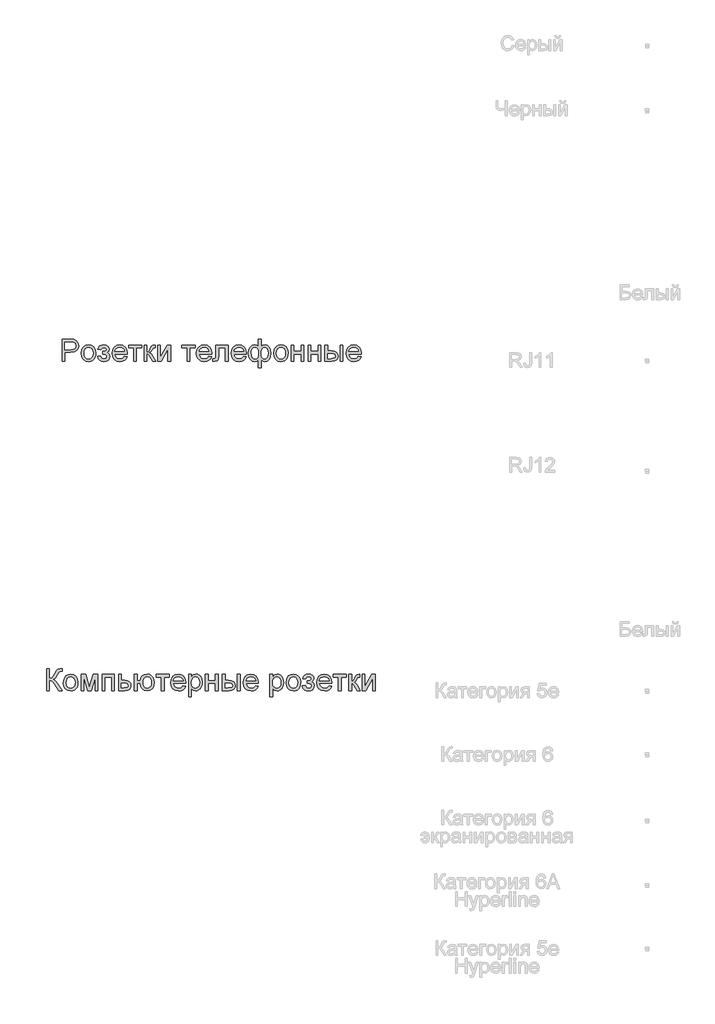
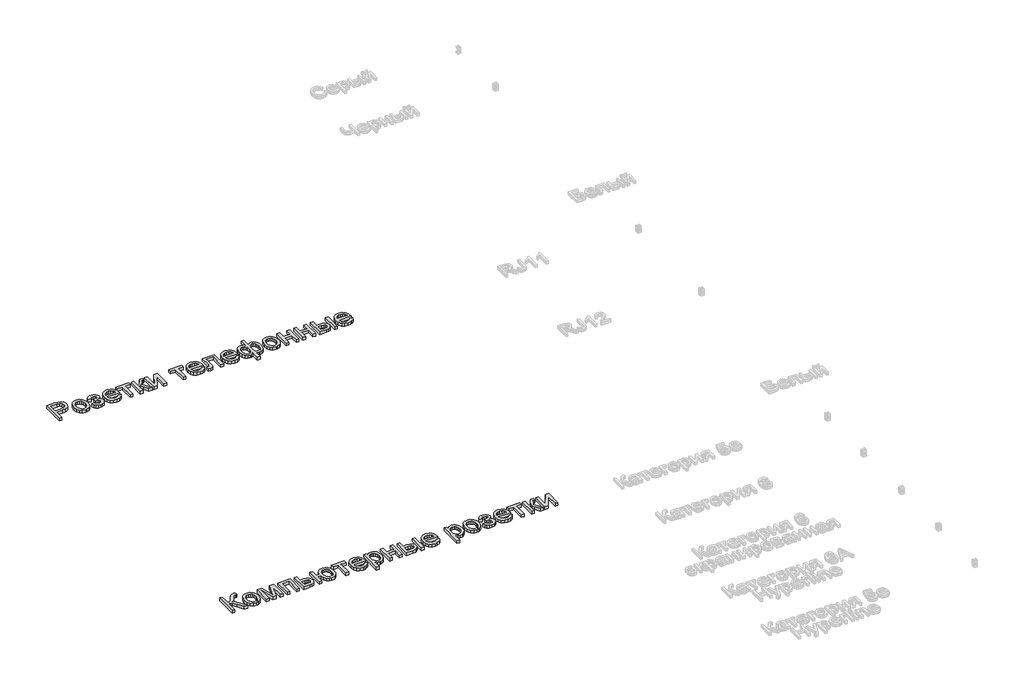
# One storey, part 4 of 15: 2 proxies.
"""IFC4 building model written with IfcOpenShell, lengths in millimetres."""

from ifc_helpers import new_model, si_unit, origin, origin_with_axes, place, context, project, spatial, polyline, outline, extrude, element, save

model = new_model("IFC4")

# Units and contexts
model_context = context("Model", 3, world=origin())
ifc_project = project(units=[si_unit("LENGTHUNIT", "METRE", prefix="MILLI")], contexts=[model_context])

# Site, building, storey
site = spatial("IfcSite", under=ifc_project)
building = spatial("IfcBuilding", under=site)
storey = spatial("IfcBuildingStorey", under=building, Name="Этаж 01", Elevation=0.0)

# Proxies
placement = place(None, origin())
element("IfcBuildingElementProxy", 1, Name="150 мм Arial", ObjectType="150 мм Arial", at=placement, inside=storey, context=model_context, shape_type="SweptSolid", body=[
    extrude(outline(polyline([(-2488.4775814, -3406.4374875), (-2488.4775814, -3255.7530223), (-2432.6330945, -3255.7530223), (-2410.1187164, -3257.1877621), (-2391.8165872, -3264.2327023), (-2379.9523928, -3278.8008293), (-2375.4642325, -3299.3470387), (-2378.4946604, -3317.106542), (-2387.5859442, -3331.9045953), (-2404.5866909, -3341.8925915), (-2431.3455075, -3345.2219235), (-2469.6420232, -3345.2219235), (-2469.6420232, -3406.4374875), (-2488.4775814, -3406.4374875)]), holes=[polyline([(-2469.6420232, -3326.3863654), (-2430.2418616, -3326.3863654), (-2413.540019, -3324.65732), (-2402.5035591, -3319.4701838), (-2396.3507328, -3311.1468537), (-2394.2997906, -3300.0092263), (-2399.1374389, -3284.4110297), (-2411.8477618, -3275.8761674), (-2430.68332, -3274.5885804), (-2469.6420232, -3274.5885804), (-2469.6420232, -3326.3863654)])]), origin_with_axes(), (0.0, 0.0, 1.0), 20.0),
    extrude(outline(polyline([(-2356.6286743, -3351.1080354), (-2352.5543812, -3324.4273937), (-2340.3315019, -3305.674609), (-2325.229946, -3296.4867562), (-2307.148546, -3293.4241386), (-2287.3610932, -3297.1535423), (-2271.5559629, -3308.3417535), (-2261.1954862, -3326.1058553), (-2257.741994, -3349.5629311), (-2259.2687043, -3368.5916273), (-2263.8488351, -3383.0769808), (-2271.3490293, -3393.9249011), (-2281.6359296, -3402.0412977), (-2293.8542104, -3407.1042736), (-2307.148546, -3408.7919323), (-2327.1751221, -3405.0763241), (-2342.9618582, -3393.9294997), (-2353.2119703, -3375.7929173), (-2356.6286743, -3351.1080354)]), holes=[polyline([(-2337.7931162, -3351.0712472), (-2335.6134153, -3368.1179792), (-2329.0743129, -3380.2626836), (-2319.2334695, -3387.5329515), (-2307.148546, -3389.9563741), (-2295.1188047, -3387.5191559), (-2285.2963555, -3380.2075013), (-2278.757253, -3367.9018485), (-2276.5775522, -3350.482636), (-2278.7710486, -3333.9325448), (-2285.3515378, -3321.9533873), (-2295.1877826, -3314.6831194), (-2307.148546, -3312.2596967), (-2319.2334695, -3314.6739223), (-2329.0743129, -3321.9165991), (-2335.6134153, -3334.0337123), (-2337.7931162, -3351.0712472)])]), origin_with_axes(), (0.0, 0.0, 1.0), 20.0),
    extrude(outline(polyline([(-2210.6530986, -3356.9941474), (-2210.6530986, -3338.1585892), (-2195.790666, -3337.4228252), (-2188.2858733, -3333.504882), (-2184.7542062, -3325.3195076), (-2189.4814898, -3315.809758), (-2201.676778, -3312.2596967), (-2214.2767363, -3315.7913639), (-2222.4253225, -3326.3863654), (-2243.6153254, -3324.0319206), (-2237.9959279, -3310.641016), (-2229.4518686, -3301.0760841), (-2217.9831474, -3295.337125), (-2203.5897643, -3293.4241386), (-2187.8444149, -3295.7555907), (-2175.9250383, -3302.7499472), (-2168.4202456, -3312.9816652), (-2165.918648, -3325.025202), (-2169.4779063, -3336.7238494), (-2180.1556812, -3345.7737465), (-2167.7028757, -3357.5091822), (-2163.5642033, -3374.3949657), (-2166.189961, -3388.2595184), (-2174.0672342, -3399.2453945), (-2186.662594, -3406.4052978), (-2203.4426115, -3408.7919323), (-2219.854747, -3406.5846403), (-2232.4133187, -3399.9627644), (-2241.1183264, -3388.9263045), (-2245.9697702, -3373.4752607), (-2224.7797673, -3371.120816), (-2216.2816932, -3385.0267554), (-2201.6399898, -3389.9563741), (-2187.8812031, -3385.2290905), (-2182.3997614, -3373.1441669), (-2185.8026699, -3363.2481413), (-2193.0499452, -3357.9506405), (-2206.9742787, -3356.8837828), (-2210.6530986, -3356.9941474)])), origin_with_axes(), (0.0, 0.0, 1.0), 20.0),
    extrude(outline(polyline([(-2062.5438074, -3373.4752607), (-2044.0761312, -3375.8297055), (-2050.7301968, -3389.744842), (-2061.3481909, -3400.1467054), (-2075.6909902, -3406.6306256), (-2093.5194714, -3408.7919323), (-2115.6199822, -3405.0625286), (-2132.6253275, -3393.8743174), (-2143.4686493, -3375.9538657), (-2147.0830899, -3352.0277404), (-2143.4318611, -3327.2968733), (-2132.4781747, -3308.801606), (-2115.7027557, -3297.2685054), (-2094.5863292, -3293.4241386), (-2074.1274917, -3297.2593084), (-2057.7797355, -3308.7648178), (-2047.0605739, -3327.2232969), (-2043.48752, -3351.9173758), (-2043.5978846, -3356.9941474), (-2128.2475317, -3356.9941474), (-2124.9871775, -3371.0932248), (-2117.413407, -3381.4583), (-2106.4827132, -3387.8318556), (-2093.1515894, -3389.9563741), (-2074.6839132, -3386.0200368), (-2062.5438074, -3373.4752607)]), holes=[polyline([(-2128.2475317, -3338.1585892), (-2062.3230782, -3338.1585892), (-2064.870661, -3328.2073812), (-2069.8646591, -3321.0888646), (-2080.8459366, -3314.4669887), (-2094.6599056, -3312.2596967), (-2107.3564329, -3314.0209318), (-2117.8548654, -3319.304637), (-2125.1527244, -3327.5405951), (-2128.2475317, -3338.1585892)])]), origin_with_axes(), (0.0, 0.0, 1.0), 20.0),
    extrude(outline(polyline([(-2034.069741, -3295.7785834), (-1944.6008397, -3295.7785834), (-1944.6008397, -3314.6141415), (-1979.9175113, -3314.6141415), (-1979.9175113, -3406.4374875), (-1998.7530694, -3406.4374875), (-1998.7530694, -3314.6141415), (-2034.069741, -3314.6141415), (-2034.069741, -3295.7785834)])), origin_with_axes(), (0.0, 0.0, 1.0), 20.0),
    extrude(outline(polyline([(-1928.1197263, -3295.7785834), (-1909.2841682, -3295.7785834), (-1909.2841682, -3342.8674787), (-1896.6658158, -3339.4829644), (-1886.3283317, -3319.7644894), (-1877.7382871, -3302.7499472), (-1870.159918, -3297.2133231), (-1856.3827373, -3295.7785834), (-1852.7774937, -3295.7785834), (-1852.7774937, -3314.7245061), (-1857.8542653, -3314.6141415), (-1867.0513151, -3316.6007043), (-1873.5260383, -3328.9983275), (-1881.1228015, -3342.4076262), (-1891.7729852, -3348.9743199), (-1879.8903968, -3356.3043686), (-1868.2285375, -3371.7462154), (-1848.0686042, -3406.4374875), (-1869.4793363, -3406.4374875), (-1889.2345995, -3372.4819794), (-1899.1674133, -3358.1161874), (-1909.2841682, -3354.6397026), (-1909.2841682, -3406.4374875), (-1928.1197263, -3406.4374875), (-1928.1197263, -3295.7785834)])), origin_with_axes(), (0.0, 0.0, 1.0), 20.0),
    extrude(outline(polyline([(-1836.2963803, -3295.7785834), (-1817.4608222, -3295.7785834), (-1817.4608222, -3380.1707131), (-1771.1812672, -3295.7785834), (-1746.8274791, -3295.7785834), (-1746.8274791, -3406.4374875), (-1765.6630373, -3406.4374875), (-1765.6630373, -3322.5603926), (-1811.6482867, -3406.4374875), (-1836.2963803, -3406.4374875), (-1836.2963803, -3295.7785834)])), origin_with_axes(), (0.0, 0.0, 1.0), 20.0),
    extrude(outline(polyline([(-1669.1308017, -3295.7785834), (-1579.6619005, -3295.7785834), (-1579.6619005, -3314.6141415), (-1614.978572, -3314.6141415), (-1614.978572, -3406.4374875), (-1633.8141302, -3406.4374875), (-1633.8141302, -3314.6141415), (-1669.1308017, -3314.6141415), (-1669.1308017, -3295.7785834)])), origin_with_axes(), (0.0, 0.0, 1.0), 20.0),
    extrude(outline(polyline([(-1485.7048389, -3373.4752607), (-1467.2371628, -3375.8297055), (-1473.8912284, -3389.744842), (-1484.5092225, -3400.1467054), (-1498.8520217, -3406.6306256), (-1516.6805029, -3408.7919323), (-1538.7810138, -3405.0625286), (-1555.786359, -3393.8743174), (-1566.6296808, -3375.9538657), (-1570.2441214, -3352.0277404), (-1566.5928926, -3327.2968733), (-1555.6392062, -3308.801606), (-1538.8637872, -3297.2685054), (-1517.7473607, -3293.4241386), (-1497.2885233, -3297.2593084), (-1480.9407671, -3308.7648178), (-1470.2216055, -3327.2232969), (-1466.6485516, -3351.9173758), (-1466.7589162, -3356.9941474), (-1551.4085633, -3356.9941474), (-1548.1482091, -3371.0932248), (-1540.5744385, -3381.4583), (-1529.6437447, -3387.8318556), (-1516.3126209, -3389.9563741), (-1497.8449448, -3386.0200368), (-1485.7048389, -3373.4752607)]), holes=[polyline([(-1551.4085633, -3338.1585892), (-1485.4841097, -3338.1585892), (-1488.0316926, -3328.2073812), (-1493.0256906, -3321.0888646), (-1504.0069682, -3314.4669887), (-1517.8209371, -3312.2596967), (-1530.5174645, -3314.0209318), (-1541.0158969, -3319.304637), (-1548.313756, -3327.5405951), (-1551.4085633, -3338.1585892)])]), origin_with_axes(), (0.0, 0.0, 1.0), 20.0),
    extrude(outline(polyline([(-1438.3952144, -3295.7785834), (-1353.6352027, -3295.7785834), (-1353.6352027, -3406.3271229), (-1372.4707608, -3406.3271229), (-1372.4707608, -3314.6141415), (-1419.5596562, -3314.6141415), (-1419.5596562, -3367.4052078), (-1420.8288491, -3391.7589959), (-1427.8002129, -3402.0412977), (-1444.2813263, -3406.4374875), (-1459.5852173, -3405.4809943), (-1459.5852173, -3387.6019294), (-1451.1607196, -3387.6019294), (-1442.6442514, -3386.4431011), (-1439.241343, -3382.7642811), (-1438.3952144, -3366.33835), (-1438.3952144, -3295.7785834)])), origin_with_axes(), (0.0, 0.0, 1.0), 20.0),
    extrude(outline(polyline([(-1247.9059173, -3373.4752607), (-1229.4382411, -3375.8297055), (-1236.0923067, -3389.744842), (-1246.7103008, -3400.1467054), (-1261.0531001, -3406.6306256), (-1278.8815813, -3408.7919323), (-1300.9820921, -3405.0625286), (-1317.9874373, -3393.8743174), (-1328.8307591, -3375.9538657), (-1332.4451998, -3352.0277404), (-1328.7939709, -3327.2968733), (-1317.8402845, -3308.801606), (-1301.0648656, -3297.2685054), (-1279.948439, -3293.4241386), (-1259.4896016, -3297.2593084), (-1243.1418454, -3308.7648178), (-1232.4226838, -3327.2232969), (-1228.8496299, -3351.9173758), (-1228.9599945, -3356.9941474), (-1313.6096416, -3356.9941474), (-1310.3492874, -3371.0932248), (-1302.7755168, -3381.4583), (-1291.8448231, -3387.8318556), (-1278.5136993, -3389.9563741), (-1260.0460231, -3386.0200368), (-1247.9059173, -3373.4752607)]), holes=[polyline([(-1313.6096416, -3338.1585892), (-1247.6851881, -3338.1585892), (-1250.2327709, -3328.2073812), (-1255.226769, -3321.0888646), (-1266.2080465, -3314.4669887), (-1280.0220154, -3312.2596967), (-1292.7185428, -3314.0209318), (-1303.2169752, -3319.304637), (-1310.5148343, -3327.5405951), (-1313.6096416, -3338.1585892)])]), origin_with_axes(), (0.0, 0.0, 1.0), 20.0),
    extrude(outline(polyline([(-1146.444063, -3255.7530223), (-1127.6085048, -3255.7530223), (-1127.6085048, -3306.410373), (-1115.6339459, -3296.643106), (-1101.5992478, -3293.4241386), (-1085.1135359, -3297.5168258), (-1072.4445997, -3309.7948874), (-1064.3741884, -3328.2809576), (-1061.6840513, -3350.9976708), (-1064.581122, -3374.4087613), (-1073.2723341, -3392.8442478), (-1086.2677656, -3404.8050112), (-1102.0774944, -3408.7919323), (-1113.5922008, -3406.9525223), (-1127.6085048, -3396.9093438), (-1127.6085048, -3448.8174934), (-1146.444063, -3448.8174934), (-1146.444063, -3396.9093438), (-1158.4738042, -3405.8120881), (-1172.7108374, -3408.7919323), (-1188.492975, -3404.9843536), (-1202.1413971, -3393.5616177), (-1211.5775702, -3375.0479563), (-1214.7229613, -3349.9676012), (-1211.8764744, -3327.8854845), (-1203.3370135, -3309.6845228), (-1189.9874956, -3297.4892346), (-1172.7108374, -3293.4241386), (-1158.1243163, -3296.643106), (-1146.444063, -3306.410373), (-1146.444063, -3255.7530223)]), holes=[polyline([(-1195.8874031, -3349.5629311), (-1194.0020079, -3368.0398043), (-1188.3458222, -3380.5018068), (-1179.8937334, -3387.5927323), (-1169.6206287, -3389.9563741), (-1159.3981077, -3387.6065279), (-1152.1278398, -3380.5569891), (-1147.7822337, -3368.8077579), (-1146.3336984, -3352.3588342), (-1147.8558101, -3334.8154616), (-1152.4221454, -3322.2844811), (-1160.0602953, -3314.7658928), (-1170.7978511, -3312.2596967), (-1180.8778177, -3314.706112), (-1188.8976452, -3322.0453578), (-1194.1399637, -3333.8175817), (-1195.8874031, -3349.5629311)]), polyline([(-1127.7188694, -3351.4391292), (-1126.1507724, -3370.5092122), (-1121.4464814, -3382.1020935), (-1114.3785486, -3387.992804), (-1105.7195261, -3389.9563741), (-1096.0396311, -3387.5421485), (-1087.8956435, -3380.2994718), (-1082.363618, -3367.9708264), (-1080.5196095, -3350.298695), (-1082.2210637, -3333.5416702), (-1087.3254264, -3321.6774758), (-1095.0969335, -3314.6141415), (-1104.7998211, -3312.2596967), (-1114.7924158, -3314.7107105), (-1121.9615162, -3322.0637519), (-1126.2795311, -3334.3096238), (-1127.7188694, -3351.4391292)])]), origin_with_axes(), (0.0, 0.0, 1.0), 20.0),
    extrude(outline(polyline([(-1042.8484931, -3351.1080354), (-1038.7742001, -3324.4273937), (-1026.5513208, -3305.674609), (-1011.4497649, -3296.4867562), (-993.3683648, -3293.4241386), (-973.580912, -3297.1535423), (-957.7757818, -3308.3417535), (-947.4153051, -3326.1058553), (-943.9618128, -3349.5629311), (-945.4885231, -3368.5916273), (-950.068654, -3383.0769808), (-957.5688481, -3393.9249011), (-967.8557484, -3402.0412977), (-980.0740292, -3407.1042736), (-993.3683648, -3408.7919323), (-1013.3949409, -3405.0763241), (-1029.181677, -3393.9294997), (-1039.4317891, -3375.7929173), (-1042.8484931, -3351.1080354)]), holes=[polyline([(-1024.012935, -3351.0712472), (-1021.8332342, -3368.1179792), (-1015.2941317, -3380.2626836), (-1005.4532883, -3387.5329515), (-993.3683648, -3389.9563741), (-981.3386236, -3387.5191559), (-971.5161743, -3380.2075013), (-964.9770718, -3367.9018485), (-962.797371, -3350.482636), (-964.9908674, -3333.9325448), (-971.5713566, -3321.9533873), (-981.4076014, -3314.6831194), (-993.3683648, -3312.2596967), (-1005.4532883, -3314.6739223), (-1015.2941317, -3321.9165991), (-1021.8332342, -3334.0337123), (-1024.012935, -3351.0712472)])]), origin_with_axes(), (0.0, 0.0, 1.0), 20.0),
    extrude(outline(polyline([(-922.7718099, -3295.7785834), (-903.9362518, -3295.7785834), (-903.9362518, -3338.1585892), (-854.4929116, -3338.1585892), (-854.4929116, -3295.7785834), (-835.6573535, -3295.7785834), (-835.6573535, -3406.4374875), (-854.4929116, -3406.4374875), (-854.4929116, -3356.9941474), (-903.9362518, -3356.9941474), (-903.9362518, -3406.4374875), (-922.7718099, -3406.4374875), (-922.7718099, -3295.7785834)])), origin_with_axes(), (0.0, 0.0, 1.0), 20.0),
    extrude(outline(polyline([(-807.4040162, -3295.7785834), (-788.5684581, -3295.7785834), (-788.5684581, -3338.1585892), (-739.1251179, -3338.1585892), (-739.1251179, -3295.7785834), (-720.2895598, -3295.7785834), (-720.2895598, -3406.4374875), (-739.1251179, -3406.4374875), (-739.1251179, -3356.9941474), (-788.5684581, -3356.9941474), (-788.5684581, -3406.4374875), (-807.4040162, -3406.4374875), (-807.4040162, -3295.7785834)])), origin_with_axes(), (0.0, 0.0, 1.0), 20.0),
    extrude(outline(polyline([(-588.4406527, -3295.7785834), (-569.6050946, -3295.7785834), (-569.6050946, -3406.4374875), (-588.4406527, -3406.4374875), (-588.4406527, -3295.7785834)])), origin_with_axes(), (0.0, 0.0, 1.0), 20.0),
    extrude(outline(polyline([(-692.0362225, -3295.7785834), (-673.2006644, -3295.7785834), (-673.2006644, -3335.8041444), (-649.9137341, -3335.8041444), (-629.7859904, -3338.1631877), (-614.8729741, -3345.2403176), (-605.6437345, -3356.465317), (-602.5673213, -3371.2679688), (-605.1470938, -3384.7462454), (-612.8864113, -3396.1183975), (-626.2911115, -3403.857715), (-645.8670322, -3406.4374875), (-692.0362225, -3406.4374875), (-692.0362225, -3295.7785834)]), holes=[polyline([(-673.2006644, -3387.6019294), (-653.8500714, -3387.6019294), (-628.870884, -3383.6471979), (-623.2698806, -3378.5842219), (-621.4028795, -3371.304757), (-626.9395035, -3359.7164741), (-635.8192552, -3355.9088955), (-651.3852621, -3354.6397026), (-673.2006644, -3354.6397026), (-673.2006644, -3387.6019294)])]), origin_with_axes(), (0.0, 0.0, 1.0), 20.0),
    extrude(outline(polyline([(-463.8758091, -3373.4752607), (-445.408133, -3375.8297055), (-452.0621986, -3389.744842), (-462.6801927, -3400.1467054), (-477.0229919, -3406.6306256), (-494.8514731, -3408.7919323), (-516.951984, -3405.0625286), (-533.9573292, -3393.8743174), (-544.800651, -3375.9538657), (-548.4150916, -3352.0277404), (-544.7638628, -3327.2968733), (-533.8101764, -3308.801606), (-517.0347574, -3297.2685054), (-495.9183309, -3293.4241386), (-475.4594935, -3297.2593084), (-459.1117373, -3308.7648178), (-448.3925757, -3327.2232969), (-444.8195218, -3351.9173758), (-444.9298864, -3356.9941474), (-529.5795335, -3356.9941474), (-526.3191793, -3371.0932248), (-518.7454087, -3381.4583), (-507.8147149, -3387.8318556), (-494.4835911, -3389.9563741), (-476.015915, -3386.0200368), (-463.8758091, -3373.4752607)]), holes=[polyline([(-529.5795335, -3338.1585892), (-463.6550799, -3338.1585892), (-466.2026628, -3328.2073812), (-471.1966608, -3321.0888646), (-482.1779384, -3314.4669887), (-495.9919073, -3312.2596967), (-508.6884347, -3314.0209318), (-519.1868671, -3319.304637), (-526.4847262, -3327.5405951), (-529.5795335, -3338.1585892)])]), origin_with_axes(), (0.0, 0.0, 1.0), 20.0),
])
element("IfcBuildingElementProxy", 2, Name="150 мм Arial", ObjectType="150 мм Arial", at=placement, inside=storey, context=model_context, shape_type="SweptSolid", body=[
    extrude(outline(polyline([(-2594.427596, -5505.828463), (-2575.5920379, -5505.828463), (-2575.5920379, -5571.7529165), (-2562.8403282, -5570.5067163), (-2554.5307936, -5566.7681155), (-2539.8339079, -5541.5498047), (-2529.4412416, -5520.4885605), (-2517.6690177, -5510.0591059), (-2500.8384164, -5505.828463), (-2488.4775814, -5506.0491922), (-2488.4775814, -5524.8847503), (-2492.6346479, -5524.7743857), (-2496.7917145, -5524.6640212), (-2511.5069943, -5529.1889697), (-2522.6906069, -5548.5763508), (-2536.0263293, -5572.1943749), (-2549.0309578, -5579.9934732), (-2534.4904219, -5588.5099414), (-2520.1522212, -5606.2602477), (-2488.4775814, -5656.5129282), (-2510.3297719, -5656.5129282), (-2537.1115812, -5614.059346), (-2555.9655334, -5591.8944558), (-2564.6705411, -5587.3833028), (-2575.5920379, -5585.8795851), (-2575.5920379, -5656.5129282), (-2594.427596, -5656.5129282), (-2594.427596, -5505.828463)])), origin_with_axes(), (0.0, 0.0, 1.0), 20.0),
    extrude(outline(polyline([(-2479.0598023, -5601.1834761), (-2474.9855092, -5574.5028344), (-2462.7626299, -5555.7500497), (-2447.661074, -5546.5621969), (-2429.579674, -5543.4995793), (-2409.7922212, -5547.228983), (-2393.9870909, -5558.4171942), (-2383.6266142, -5576.1812961), (-2380.173122, -5599.6383718), (-2381.6998323, -5618.667068), (-2386.2799631, -5633.1524215), (-2393.7801573, -5644.0003419), (-2404.0670576, -5652.1167384), (-2416.2853384, -5657.1797143), (-2429.579674, -5658.867373), (-2449.6062501, -5655.1517648), (-2465.3929862, -5644.0049404), (-2475.6430983, -5625.868358), (-2479.0598023, -5601.1834761)]), holes=[polyline([(-2460.2242442, -5601.1466879), (-2458.0445433, -5618.1934199), (-2451.5054409, -5630.3381243), (-2441.6645975, -5637.6083922), (-2429.579674, -5640.0318148), (-2417.5499327, -5637.5945966), (-2407.7274835, -5630.282942), (-2401.188381, -5617.9772892), (-2399.0086802, -5600.5580768), (-2401.2021766, -5584.0079855), (-2407.7826658, -5572.028828), (-2417.6189106, -5564.7585601), (-2429.579674, -5562.3351375), (-2441.6645975, -5564.749363), (-2451.5054409, -5571.9920398), (-2458.0445433, -5584.109153), (-2460.2242442, -5601.1466879)])]), origin_with_axes(), (0.0, 0.0, 1.0), 20.0),
    extrude(outline(polyline([(-2358.9831191, -5545.8540241), (-2326.5727153, -5545.8540241), (-2301.5935278, -5634.4400085), (-2274.6645658, -5545.8540241), (-2243.6153254, -5545.8540241), (-2243.6153254, -5656.5129282), (-2262.4508836, -5656.5129282), (-2262.4508836, -5567.411909), (-2289.5269984, -5656.5129282), (-2314.2486685, -5656.5129282), (-2340.1475609, -5563.1444778), (-2340.1475609, -5656.5129282), (-2358.9831191, -5656.5129282), (-2358.9831191, -5545.8540241)])), origin_with_axes(), (0.0, 0.0, 1.0), 20.0),
    extrude(outline(polyline([(-2215.3619882, -5545.8540241), (-2130.6019765, -5545.8540241), (-2130.6019765, -5656.5129282), (-2149.4375346, -5656.5129282), (-2149.4375346, -5564.6895822), (-2196.52643, -5564.6895822), (-2196.52643, -5656.5129282), (-2215.3619882, -5656.5129282), (-2215.3619882, -5545.8540241)])), origin_with_axes(), (0.0, 0.0, 1.0), 20.0),
    extrude(outline(polyline([(-2102.3486393, -5545.8540241), (-2083.5130811, -5545.8540241), (-2083.5130811, -5585.8795851), (-2061.8080434, -5585.8795851), (-2042.9908793, -5588.2386284), (-2029.0665458, -5595.3157583), (-2020.4581071, -5606.5407577), (-2017.5886276, -5621.3434095), (-2020.0304443, -5634.8216861), (-2027.3558945, -5646.1938383), (-2040.0524219, -5653.9331557), (-2058.60747, -5656.5129282), (-2102.3486393, -5656.5129282), (-2102.3486393, -5545.8540241)]), holes=[polyline([(-2083.5130811, -5637.6773701), (-2065.9283217, -5637.6773701), (-2043.2116085, -5633.7226386), (-2038.1210414, -5628.6596627), (-2036.4241857, -5621.3801977), (-2041.445775, -5609.7919148), (-2049.5161862, -5605.9843362), (-2063.6842416, -5604.7151433), (-2083.5130811, -5604.7151433), (-2083.5130811, -5637.6773701)])]), origin_with_axes(), (0.0, 0.0, 1.0), 20.0),
    extrude(outline(polyline([(-1994.0441799, -5545.8540241), (-1975.2086217, -5545.8540241), (-1975.2086217, -5588.2340299), (-1954.0186188, -5588.2340299), (-1949.1303868, -5569.0305898), (-1939.3953095, -5554.9774976), (-1925.4295893, -5546.3690589), (-1907.8494284, -5543.4995793), (-1893.0743678, -5545.187238), (-1881.784989, -5550.2502139), (-1866.0396397, -5568.8466488), (-1861.3905309, -5582.7525882), (-1859.840828, -5600.778806), (-1863.0459999, -5625.9051462), (-1872.6615156, -5644.115305), (-1887.76767, -5655.179356), (-1907.4447582, -5658.867373), (-1925.8342594, -5655.4092822), (-1940.1678617, -5645.03501), (-1949.7833773, -5628.627473), (-1954.0186188, -5607.0695881), (-1975.2086217, -5607.0695881), (-1975.2086217, -5656.5129282), (-1994.0441799, -5656.5129282), (-1994.0441799, -5545.8540241)]), holes=[polyline([(-1906.6354178, -5562.3351375), (-1918.6421664, -5564.7723557), (-1927.6598738, -5572.0840103), (-1933.3022639, -5583.7918548), (-1935.1830606, -5599.4176426), (-1933.2884684, -5617.6232028), (-1927.6046915, -5630.2277597), (-1918.7479325, -5637.580801), (-1907.3343936, -5640.0318148), (-1895.888665, -5637.764742), (-1886.7146078, -5630.9635237), (-1880.6859416, -5619.1131249), (-1878.6763862, -5601.6985109), (-1880.4146286, -5584.477035), (-1885.6293559, -5572.1759808), (-1894.3573562, -5564.7953483), (-1906.6354178, -5562.3351375)])]), origin_with_axes(), (0.0, 0.0, 1.0), 20.0),
    extrude(outline(polyline([(-1845.7141594, -5545.8540241), (-1756.2452582, -5545.8540241), (-1756.2452582, -5564.6895822), (-1791.5619297, -5564.6895822), (-1791.5619297, -5656.5129282), (-1810.3974879, -5656.5129282), (-1810.3974879, -5564.6895822), (-1845.7141594, -5564.6895822), (-1845.7141594, -5545.8540241)])), origin_with_axes(), (0.0, 0.0, 1.0), 20.0),
    extrude(outline(polyline([(-1662.2881966, -5623.5507015), (-1643.8205205, -5625.9051462), (-1650.4745861, -5639.8202827), (-1661.0925801, -5650.2221461), (-1675.4353794, -5656.7060663), (-1693.2638606, -5658.867373), (-1715.3643715, -5655.1379693), (-1732.3697167, -5643.9497581), (-1743.2130385, -5626.0293064), (-1746.8274791, -5602.1031811), (-1743.1762503, -5577.372314), (-1732.2225639, -5558.8770467), (-1715.4471449, -5547.3439462), (-1694.3307184, -5543.4995793), (-1673.871881, -5547.3347491), (-1657.5241248, -5558.8402585), (-1646.8049632, -5577.2987376), (-1643.2319093, -5601.9928165), (-1643.3422739, -5607.0695881), (-1727.991921, -5607.0695881), (-1724.7315668, -5621.1686655), (-1717.1577962, -5631.5337407), (-1706.2271024, -5637.9072963), (-1692.8959786, -5640.0318148), (-1674.4283025, -5636.0954775), (-1662.2881966, -5623.5507015)]), holes=[polyline([(-1727.991921, -5588.2340299), (-1662.0674674, -5588.2340299), (-1664.6150502, -5578.2828219), (-1669.6090483, -5571.1643053), (-1680.5903259, -5564.5424294), (-1694.4042948, -5562.3351375), (-1707.1008222, -5564.0963725), (-1717.5992546, -5569.3800777), (-1724.8971137, -5577.6160358), (-1727.991921, -5588.2340299)])]), origin_with_axes(), (0.0, 0.0, 1.0), 20.0),
    extrude(outline(polyline([(-1624.3963511, -5698.8929341), (-1624.3963511, -5545.8540241), (-1605.560793, -5545.8540241), (-1605.560793, -5564.3217002), (-1592.5377703, -5548.7051095), (-1574.953011, -5543.4995793), (-1562.2150969, -5545.3205952), (-1551.0774695, -5550.7836428), (-1542.0091783, -5559.5576284), (-1535.4792729, -5571.3114581), (-1530.2185604, -5600.3373476), (-1531.7038839, -5616.4459804), (-1536.1598546, -5630.8531591), (-1543.4439181, -5642.827718), (-1553.4135202, -5651.6384918), (-1565.0247956, -5657.0601527), (-1577.2338793, -5658.867373), (-1593.6230222, -5654.0297248), (-1605.560793, -5641.7976484), (-1605.560793, -5698.8929341), (-1624.3963511, -5698.8929341)]), holes=[polyline([(-1605.560793, -5602.0663929), (-1603.5236464, -5618.9521765), (-1597.4122068, -5630.7611886), (-1588.3944994, -5637.7141583), (-1577.6385495, -5640.0318148), (-1566.7078558, -5637.6313848), (-1557.4602221, -5630.4300948), (-1551.1556444, -5618.1888214), (-1549.0541185, -5600.6684414), (-1551.1050606, -5583.8746283), (-1557.257887, -5571.9000693), (-1566.2617988, -5564.7263704), (-1576.8659973, -5562.3351375), (-1587.5115826, -5564.8781217), (-1596.8603838, -5572.5070746), (-1603.3856907, -5584.9828728), (-1605.560793, -5602.0663929)])]), origin_with_axes(), (0.0, 0.0, 1.0), 20.0),
    extrude(outline(polyline([(-1509.0285574, -5545.8540241), (-1490.1929993, -5545.8540241), (-1490.1929993, -5588.2340299), (-1440.7496591, -5588.2340299), (-1440.7496591, -5545.8540241), (-1421.914101, -5545.8540241), (-1421.914101, -5656.5129282), (-1440.7496591, -5656.5129282), (-1440.7496591, -5607.0695881), (-1490.1929993, -5607.0695881), (-1490.1929993, -5656.5129282), (-1509.0285574, -5656.5129282), (-1509.0285574, -5545.8540241)])), origin_with_axes(), (0.0, 0.0, 1.0), 20.0),
    extrude(outline(polyline([(-1290.0651939, -5545.8540241), (-1271.2296358, -5545.8540241), (-1271.2296358, -5656.5129282), (-1290.0651939, -5656.5129282), (-1290.0651939, -5545.8540241)])), origin_with_axes(), (0.0, 0.0, 1.0), 20.0),
    extrude(outline(polyline([(-1393.6607637, -5545.8540241), (-1374.8252056, -5545.8540241), (-1374.8252056, -5585.8795851), (-1351.5382753, -5585.8795851), (-1331.4105316, -5588.2386284), (-1316.4975153, -5595.3157583), (-1307.2682757, -5606.5407577), (-1304.1918625, -5621.3434095), (-1306.771635, -5634.8216861), (-1314.5109525, -5646.1938383), (-1327.9156527, -5653.9331557), (-1347.4915734, -5656.5129282), (-1393.6607637, -5656.5129282), (-1393.6607637, -5545.8540241)]), holes=[polyline([(-1374.8252056, -5637.6773701), (-1355.4746126, -5637.6773701), (-1330.4954252, -5633.7226386), (-1324.8944218, -5628.6596627), (-1323.0274207, -5621.3801977), (-1328.5640447, -5609.7919148), (-1337.4437964, -5605.9843362), (-1353.0098033, -5604.7151433), (-1374.8252056, -5604.7151433), (-1374.8252056, -5637.6773701)])]), origin_with_axes(), (0.0, 0.0, 1.0), 20.0),
    extrude(outline(polyline([(-1165.5003503, -5623.5507015), (-1147.0326742, -5625.9051462), (-1153.6867398, -5639.8202827), (-1164.3047339, -5650.2221461), (-1178.6475331, -5656.7060663), (-1196.4760143, -5658.867373), (-1218.5765252, -5655.1379693), (-1235.5818704, -5643.9497581), (-1246.4251922, -5626.0293064), (-1250.0396328, -5602.1031811), (-1246.388404, -5577.372314), (-1235.4347176, -5558.8770467), (-1218.6592986, -5547.3439462), (-1197.5428721, -5543.4995793), (-1177.0840347, -5547.3347491), (-1160.7362785, -5558.8402585), (-1150.0171169, -5577.2987376), (-1146.444063, -5601.9928165), (-1146.5544276, -5607.0695881), (-1231.2040747, -5607.0695881), (-1227.9437205, -5621.1686655), (-1220.3699499, -5631.5337407), (-1209.4392561, -5637.9072963), (-1196.1081323, -5640.0318148), (-1177.6404562, -5636.0954775), (-1165.5003503, -5623.5507015)]), holes=[polyline([(-1231.2040747, -5588.2340299), (-1165.2796211, -5588.2340299), (-1167.827204, -5578.2828219), (-1172.821202, -5571.1643053), (-1183.8024796, -5564.5424294), (-1197.6164485, -5562.3351375), (-1210.3129759, -5564.0963725), (-1220.8114083, -5569.3800777), (-1228.1092674, -5577.6160358), (-1231.2040747, -5588.2340299)])]), origin_with_axes(), (0.0, 0.0, 1.0), 20.0),
    extrude(outline(polyline([(-1068.7473856, -5698.8929341), (-1068.7473856, -5545.8540241), (-1049.9118275, -5545.8540241), (-1049.9118275, -5564.3217002), (-1036.8888048, -5548.7051095), (-1019.3040455, -5543.4995793), (-1006.5661314, -5545.3205952), (-995.428504, -5550.7836428), (-986.3602128, -5559.5576284), (-979.8303074, -5571.3114581), (-974.5695948, -5600.3373476), (-976.0549184, -5616.4459804), (-980.5108891, -5630.8531591), (-987.7949526, -5642.827718), (-997.7645546, -5651.6384918), (-1009.3758301, -5657.0601527), (-1021.5849138, -5658.867373), (-1037.9740567, -5654.0297248), (-1049.9118275, -5641.7976484), (-1049.9118275, -5698.8929341), (-1068.7473856, -5698.8929341)]), holes=[polyline([(-1049.9118275, -5602.0663929), (-1047.8746809, -5618.9521765), (-1041.7632413, -5630.7611886), (-1032.7455339, -5637.7141583), (-1021.989584, -5640.0318148), (-1011.0588902, -5637.6313848), (-1001.8112566, -5630.4300948), (-995.5066789, -5618.1888214), (-993.405153, -5600.6684414), (-995.4560951, -5583.8746283), (-1001.6089215, -5571.9000693), (-1010.6128333, -5564.7263704), (-1021.2170318, -5562.3351375), (-1031.8626171, -5564.8781217), (-1041.2114183, -5572.5070746), (-1047.7367252, -5584.9828728), (-1049.9118275, -5602.0663929)])]), origin_with_axes(), (0.0, 0.0, 1.0), 20.0),
    extrude(outline(polyline([(-958.0884815, -5601.1834761), (-954.0141884, -5574.5028344), (-941.7913091, -5555.7500497), (-926.6897532, -5546.5621969), (-908.6083531, -5543.4995793), (-888.8209003, -5547.228983), (-873.0157701, -5558.4171942), (-862.6552934, -5576.1812961), (-859.2018012, -5599.6383718), (-860.7285114, -5618.667068), (-865.3086423, -5633.1524215), (-872.8088365, -5644.0003419), (-883.0957367, -5652.1167384), (-895.3140175, -5657.1797143), (-908.6083531, -5658.867373), (-928.6349292, -5655.1517648), (-944.4216653, -5644.0049404), (-954.6717774, -5625.868358), (-958.0884815, -5601.1834761)]), holes=[polyline([(-939.2529233, -5601.1466879), (-937.0732225, -5618.1934199), (-930.53412, -5630.3381243), (-920.6932766, -5637.6083922), (-908.6083531, -5640.0318148), (-896.5786119, -5637.5945966), (-886.7561626, -5630.282942), (-880.2170601, -5617.9772892), (-878.0373593, -5600.5580768), (-880.2308557, -5584.0079855), (-886.8113449, -5572.028828), (-896.6475897, -5564.7585601), (-908.6083531, -5562.3351375), (-920.6932766, -5564.749363), (-930.53412, -5571.9920398), (-937.0732225, -5584.109153), (-939.2529233, -5601.1466879)])]), origin_with_axes(), (0.0, 0.0, 1.0), 20.0),
    extrude(outline(polyline([(-812.1129058, -5607.0695881), (-812.1129058, -5588.2340299), (-797.2504732, -5587.4982659), (-789.7456805, -5583.5803227), (-786.2140133, -5575.3949483), (-790.941297, -5565.8851987), (-803.1365851, -5562.3351375), (-815.7365434, -5565.8668046), (-823.8851296, -5576.4618061), (-845.0751325, -5574.1073613), (-839.4557351, -5560.7164567), (-830.9116757, -5551.1515248), (-819.4429545, -5545.4125657), (-805.0495715, -5543.4995793), (-789.3042221, -5545.8310314), (-777.3848454, -5552.8253879), (-769.8800527, -5563.0571059), (-767.3784552, -5575.1006427), (-770.9377135, -5586.7992901), (-781.6154884, -5595.8491872), (-769.1626828, -5607.5846229), (-765.0240104, -5624.4704064), (-767.6497681, -5638.3349591), (-775.5270414, -5649.3208352), (-788.1224012, -5656.4807385), (-804.9024187, -5658.867373), (-821.3145542, -5656.660081), (-833.8731258, -5650.0382051), (-842.5781335, -5639.0017453), (-847.4295773, -5623.5507015), (-826.2395744, -5621.1962567), (-817.7415003, -5635.1021961), (-803.0997969, -5640.0318148), (-789.3410103, -5635.3045312), (-783.8595685, -5623.2196077), (-787.262477, -5613.323582), (-794.5097523, -5608.0260813), (-808.4340858, -5606.9592235), (-812.1129058, -5607.0695881)])), origin_with_axes(), (0.0, 0.0, 1.0), 20.0),
    extrude(outline(polyline([(-664.0036145, -5623.5507015), (-645.5359384, -5625.9051462), (-652.1900039, -5639.8202827), (-662.807998, -5650.2221461), (-677.1507973, -5656.7060663), (-694.9792785, -5658.867373), (-717.0797894, -5655.1379693), (-734.0851346, -5643.9497581), (-744.9284564, -5626.0293064), (-748.542897, -5602.1031811), (-744.8916682, -5577.372314), (-733.9379818, -5558.8770467), (-717.1625628, -5547.3439462), (-696.0461363, -5543.4995793), (-675.5872988, -5547.3347491), (-659.2395427, -5558.8402585), (-648.520381, -5577.2987376), (-644.9473272, -5601.9928165), (-645.0576918, -5607.0695881), (-729.7073389, -5607.0695881), (-726.4469847, -5621.1686655), (-718.8732141, -5631.5337407), (-707.9425203, -5637.9072963), (-694.6113965, -5640.0318148), (-676.1437204, -5636.0954775), (-664.0036145, -5623.5507015)]), holes=[polyline([(-729.7073389, -5588.2340299), (-663.7828853, -5588.2340299), (-666.3304681, -5578.2828219), (-671.3244662, -5571.1643053), (-682.3057438, -5564.5424294), (-696.1197127, -5562.3351375), (-708.8162401, -5564.0963725), (-719.3146725, -5569.3800777), (-726.6125316, -5577.6160358), (-729.7073389, -5588.2340299)])]), origin_with_axes(), (0.0, 0.0, 1.0), 20.0),
    extrude(outline(polyline([(-635.5295481, -5545.8540241), (-546.0606469, -5545.8540241), (-546.0606469, -5564.6895822), (-581.3773184, -5564.6895822), (-581.3773184, -5656.5129282), (-600.2128766, -5656.5129282), (-600.2128766, -5564.6895822), (-635.5295481, -5564.6895822), (-635.5295481, -5545.8540241)])), origin_with_axes(), (0.0, 0.0, 1.0), 20.0),
    extrude(outline(polyline([(-529.5795335, -5545.8540241), (-510.7439753, -5545.8540241), (-510.7439753, -5592.9429195), (-498.1256229, -5589.5584051), (-487.7881388, -5569.8399302), (-479.1980942, -5552.8253879), (-471.6197251, -5547.2887639), (-457.8425444, -5545.8540241), (-454.2373009, -5545.8540241), (-454.2373009, -5564.7999468), (-459.3140724, -5564.6895822), (-468.5111223, -5566.676145), (-474.9858454, -5579.0737682), (-482.5826086, -5592.483067), (-493.2327924, -5599.0497606), (-481.3502039, -5606.3798093), (-469.6883447, -5621.8216561), (-449.5284113, -5656.5129282), (-470.9391434, -5656.5129282), (-490.6944066, -5622.5574201), (-500.6272205, -5608.1916282), (-510.7439753, -5604.7151433), (-510.7439753, -5656.5129282), (-529.5795335, -5656.5129282), (-529.5795335, -5545.8540241)])), origin_with_axes(), (0.0, 0.0, 1.0), 20.0),
    extrude(outline(polyline([(-437.7561875, -5545.8540241), (-418.9206293, -5545.8540241), (-418.9206293, -5630.2461538), (-372.6410743, -5545.8540241), (-348.2872863, -5545.8540241), (-348.2872863, -5656.5129282), (-367.1228444, -5656.5129282), (-367.1228444, -5572.6358333), (-413.1080938, -5656.5129282), (-437.7561875, -5656.5129282), (-437.7561875, -5545.8540241)])), origin_with_axes(), (0.0, 0.0, 1.0), 20.0),
])

save(model, "model.ifc")
